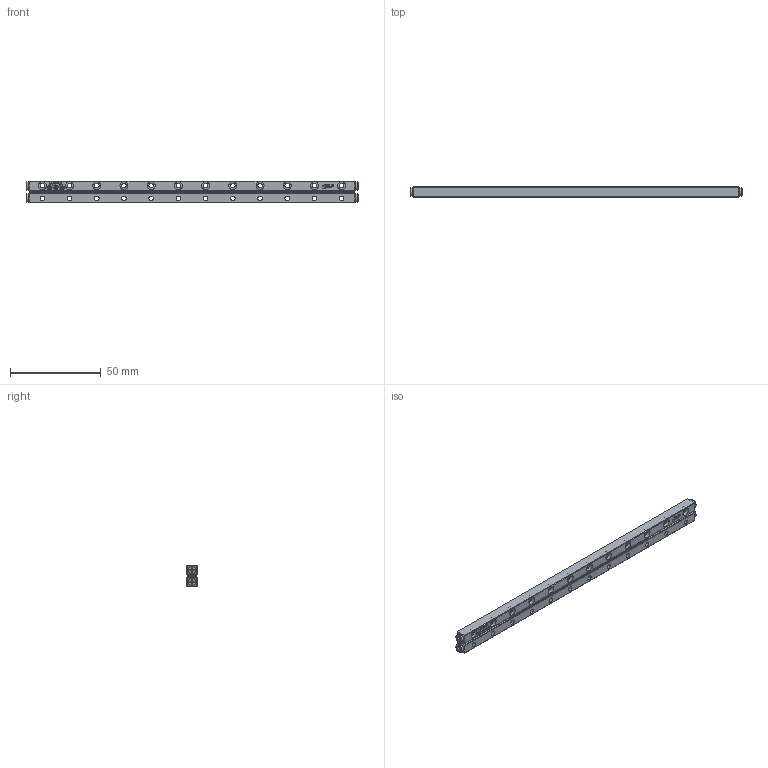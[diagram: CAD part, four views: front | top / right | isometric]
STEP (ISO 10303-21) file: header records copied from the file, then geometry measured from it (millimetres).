
FILE_DESCRIPTION (( 'STEP AP203' ), '1' );
FILE_NAME ('GRV02-180.STEP', '2023-08-22T03:51:22', ( '' ), ( '' ), 'SwSTEP 2.0', 'SolidWorks 2019', '' );
FILE_SCHEMA (( 'CONFIG_CONTROL_DESIGN' ));
Length unit declared in the file: millimetre
Products named in the file (3): GRV02-180-模糊化軌道; GRV02-180-模糊化保持器組; GRV02-180
Assembly tree (3 placements, depth 2):
  GRV02-180
    GRV02-180-模糊化軌道  x2
    GRV02-180-模糊化保持器組
Bounding box: 183 x 6 x 12 mm (x, y, z)
Volume: 10555.3 mm3; surface area: 11640.1 mm2
Topology: 3 solids, 3 shells, 1502 faces, 3836 edges, 2502 vertices
Faces by surface type: plane 937, cylinder 333, bspline 134, torus 62, cone 36
Full cylindrical faces by diameter (mm): 2.55 x24, 4.4 x24, 4.7 x4
Entity records: 38596 total; most frequent: CARTESIAN_POINT 12414, ORIENTED_EDGE 5768, DIRECTION 4745, EDGE_CURVE 2884, VERTEX_POINT 1908, LINE 1655, VECTOR 1655, AXIS2_PLACEMENT_3D 1545
